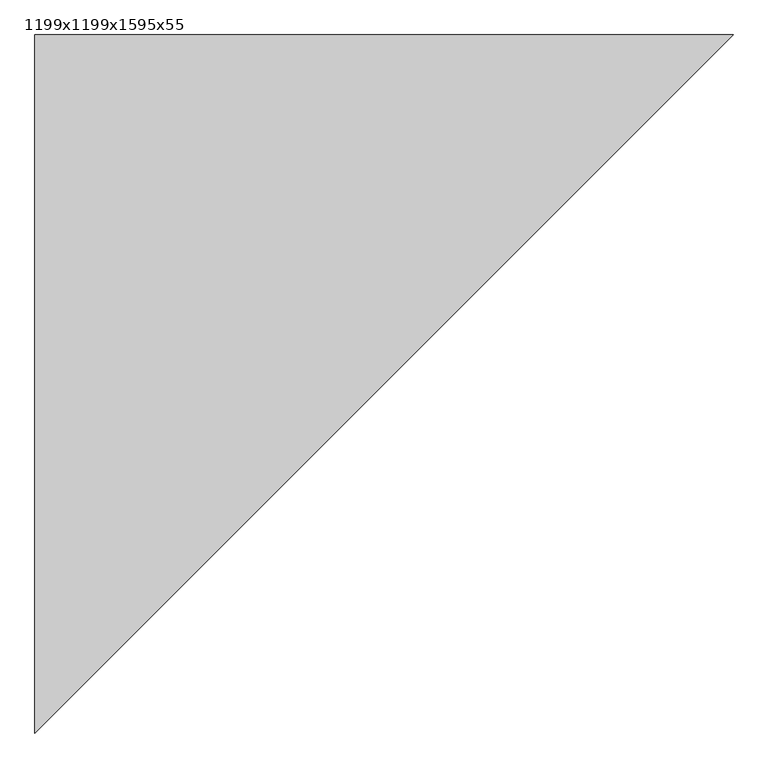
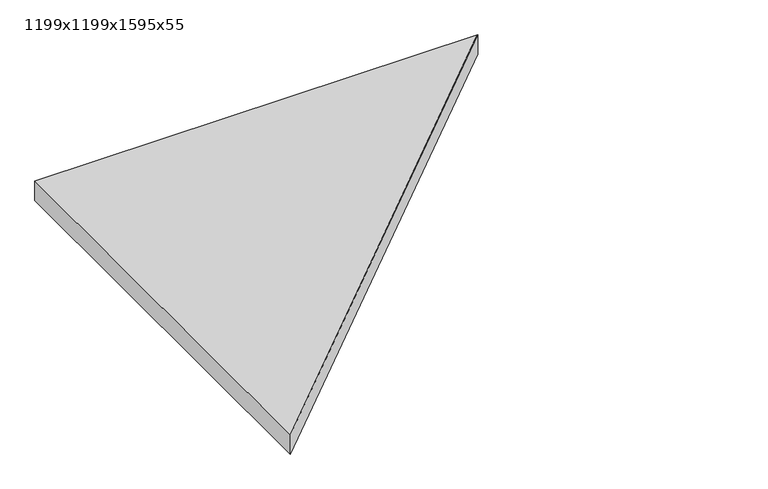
"""IFC4 building model written with IfcOpenShell, lengths in millimetres: proxy geometry, Texaa Panneaux Stereo fixés contre support par système magnétique séparés ou groupés au plafond : 1199x1199x1595x55."""

from ifc_helpers import new_model, si_unit, frame, origin, place, context, project, spatial, polyline, outline, extrude, faceted_brep, source, transform, mapped, element, save


def proxy_1199x1199x1595x55_f587ef67(model_context):
    return source(origin(), model_context, "Body", "SolidModel", [
        extrude(outline(polyline([(597.0857864, 598.5), (-598.5, -597.0857864), (-598.5, 598.5), (597.0857864, 598.5)])), frame((0.0, 0.0, 21.0), z_axis=(0.0, 0.0, 1.0), x_axis=(1.0, 0.0, 0.0)), (0.0, 0.0, 1.0), 53.0),
        faceted_brep([(599.5, 599.5, 75.0), (-599.5, 599.5, 75.0), (-599.5, -599.5, 75.0), (599.5, 599.5, 20.0), (-599.5, -599.5, 20.0), (-599.5, 599.5, 20.0), (-549.5, 549.5, 20.0), (-549.5, -478.7893219, 20.0), (478.7893219, 549.5, 20.0), (478.7893219, 549.5, 21.0), (-549.5, 549.5, 21.0), (-549.5, -478.7893219, 21.0), (597.0857864, 598.5, 74.0), (-598.5, -597.0857864, 74.0), (-598.5, 598.5, 74.0), (-598.5, -597.0857864, 21.0), (597.0857864, 598.5, 21.0), (-598.5, 598.5, 21.0)], [[[0, 1, 2]], [[3, 4, 5], [6, 7, 8]], [[5, 4, 2, 1]], [[1, 0, 3, 5]], [[6, 8, 9, 10]], [[10, 11, 7, 6]], [[12, 13, 14]], [[15, 16, 17], [10, 9, 11]], [[14, 13, 15, 17]], [[17, 16, 12, 14]], [[12, 16, 15, 13]], [[2, 4, 3, 0]], [[9, 8, 7, 11]]]),
    ])


if __name__ == "__main__":
    model = new_model("IFC4")
    model_context = context("Model", 3, world=origin())
    ifc_project = project(units=[si_unit("LENGTHUNIT", "METRE", prefix="MILLI")], contexts=[model_context])
    site = spatial("IfcSite", under=ifc_project)
    building = spatial("IfcBuilding", under=site)
    placement = place(None, origin())
    proxy_1199x1199x1595x55_shape = proxy_1199x1199x1595x55_f587ef67(model_context)
    element("IfcBuildingElementProxy", 1, Name="Texaa Panneaux Stereo fixés contre support par système magnétique séparés ou groupés au plafond : 1199x1199x1595x55", ObjectType="Texaa Panneaux Stereo fixés contre support par système magnétique séparés ou groupés au plafond : 1199x1199x1595x55", at=placement, inside=building, context=model_context, shape_type="MappedRepresentation", body=[
        mapped(proxy_1199x1199x1595x55_shape, transform((0.0, 0.0, 0.0), x_axis=(1.0, 0.0, 0.0), y_axis=(0.0, 1.0, 0.0), z_axis=(0.0, 0.0, 1.0))),
    ])
    save(model, "model.ifc")
